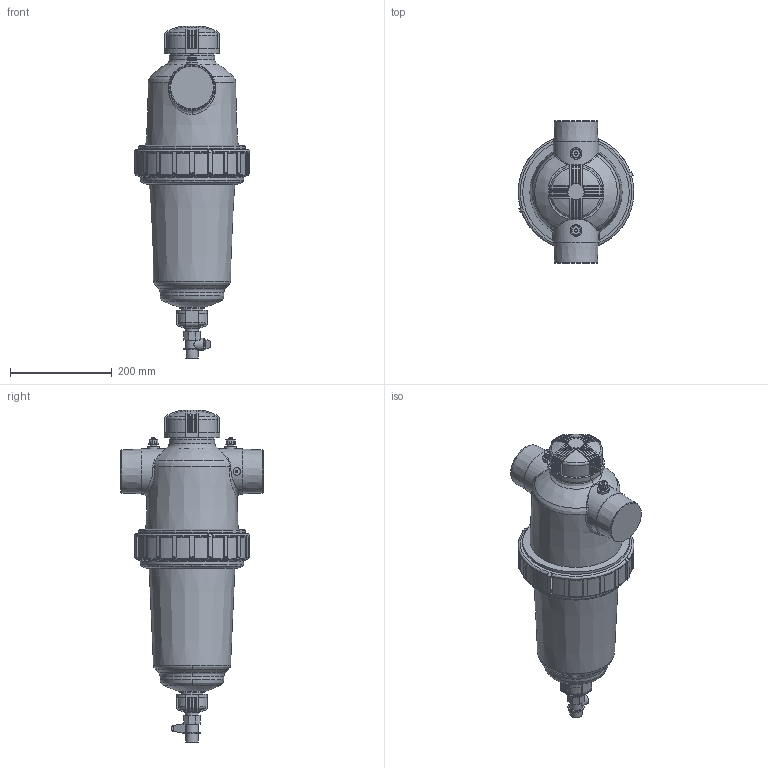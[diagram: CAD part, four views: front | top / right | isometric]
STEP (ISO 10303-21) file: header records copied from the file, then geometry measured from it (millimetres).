
FILE_DESCRIPTION( ( 'Unknown' ), '1' );
FILE_NAME( 'S:/Pirsum G/SAT/step/it/3.0 T FILTER-CAP with valve_3.0inch.stp', 'Unknown', ( 'Unknown' ), ( 'Unknown' ), 'PSStep 10.0', 'Unknown', ' ' );
FILE_SCHEMA( ( 'AUTOMOTIVE_DESIGN { 1 0 10303 214 1 1 1 1 }' ) );
Length unit declared in the file: millimetre
Products named in the file (1): 11-2020-2100
Bounding box: 228 x 280 x 654 mm (x, y, z)
Volume: 8864099.5 mm3; surface area: 547360.7 mm2
Topology: 1 solids, 2 shells, 883 faces, 2396 edges, 1540 vertices
Faces by surface type: plane 357, cylinder 345, bspline 48, torus 47, sphere 43, revolution 26, cone 17
Full cylindrical faces by diameter (mm): 3.5 x1, 6 x1, 6.8 x2, 7 x1, 8.96 x1, 13.635 x2, 14.858 x2, 18 x2, 22.8 x2, 24 x2, 37.5 x1, 44 x1, 49.1 x1, 84 x2, 90 x3, 104 x1, 111 x1, 126 x1, 185.783 x1, 204 x1, 210 x1, 222.8 x1
Entity records: 47267 total; most frequent: CARTESIAN_POINT 18891, ORIENTED_EDGE 4614, DIRECTION 4261, EDGE_CURVE 2307, AXIS2_PLACEMENT_3D 1609, VERTEX_POINT 1512, LINE 1017, VECTOR 1017
